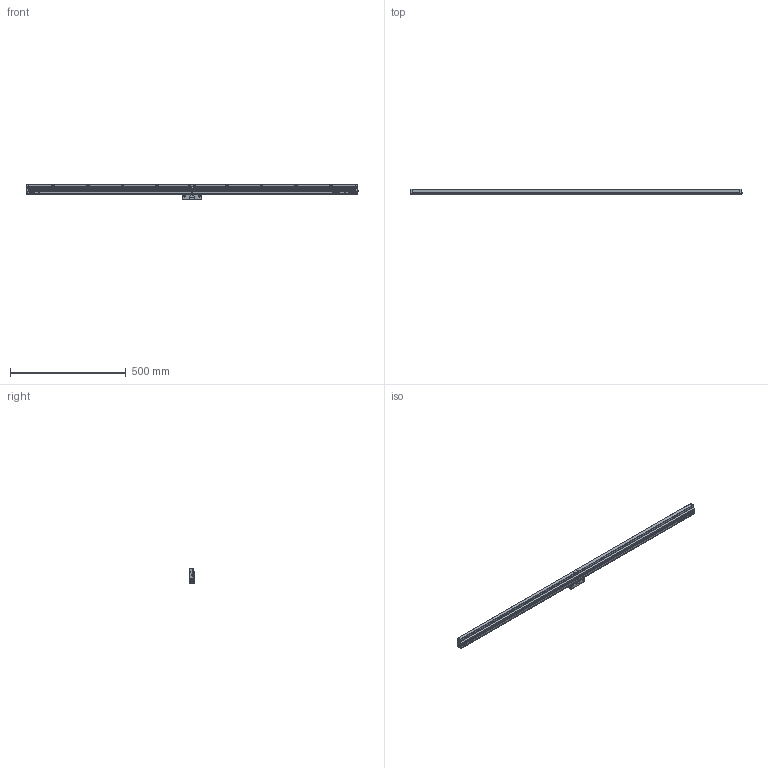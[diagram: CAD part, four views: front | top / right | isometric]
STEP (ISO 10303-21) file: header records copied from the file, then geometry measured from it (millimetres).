
FILE_DESCRIPTION(('Creo Elements/Direct Modeling STEP Export'),'2;1');
FILE_NAME('ABS AT1300-1300S.stp','2018-02-23T 9:47:57',(''),(''),'Creo Elements/Direct Modeling STEP processor for AP214 (Solid Model)','Creo Elements/Direct Modeling 18.1B 29-Sep-2012 (C) Parametric Technology GmbH','');
FILE_SCHEMA(('AUTOMOTIVE_DESIGN { 1 0 10303 214 1 1 1 1 }'));
Length unit declared in the file: millimetre
Products named in the file (3): Scale_1300; Detector_head; AT1300-1300S
Assembly tree (2 placements, depth 2):
  AT1300-1300S
    Detector_head
    Scale_1300
Bounding box: 1432.87 x 23 x 66 mm (x, y, z)
Volume: 1238674.9 mm3; surface area: 222825.8 mm2
Topology: 2 solids, 10 shells, 1289 faces, 3824 edges, 2686 vertices
Faces by surface type: plane 673, cylinder 402, torus 68, bspline 66, cone 56, sphere 24
Entity records: 58155 total; most frequent: CARTESIAN_POINT 23286, ORIENTED_EDGE 7576, DIRECTION 6512, EDGE_CURVE 3788, VERTEX_POINT 2686, VECTOR 2332, LINE 2332, AXIS2_PLACEMENT_3D 2090
